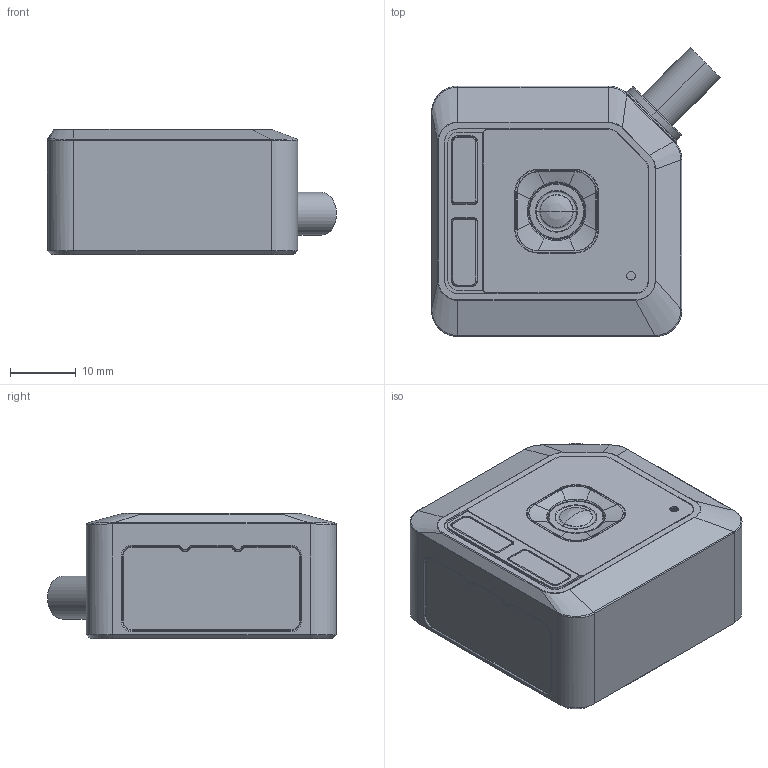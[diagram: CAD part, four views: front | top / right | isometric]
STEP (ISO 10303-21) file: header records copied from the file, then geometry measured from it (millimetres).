
FILE_DESCRIPTION((''),'2;1');
FILE_NAME('MV-SC1000','2024-01-16T11:20:24',('qiaoxuan5'),(''),'CREO PARAMETRIC BY PTC INC, 2020044','CREO PARAMETRIC BY PTC INC, 2020044','');
FILE_SCHEMA(('CONFIG_CONTROL_DESIGN'));
Length unit declared in the file: millimetre
Products named in the file (1): MV-SC1000
Bounding box: 43.89 x 43.89 x 19 mm (x, y, z)
Volume: 21861.5 mm3; surface area: 14856.6 mm2
Topology: 1 solids, 6 shells, 1412 faces, 3557 edges, 2187 vertices
Faces by surface type: cylinder 448, plane 376, torus 288, cone 180, bspline 112, sphere 6, extrusion 2
Entity records: 49741 total; most frequent: CARTESIAN_POINT 15557, DIRECTION 7589, ORIENTED_EDGE 7070, EDGE_CURVE 3535, AXIS2_PLACEMENT_3D 3076, VERTEX_POINT 2187, CIRCLE 1776, EDGE_LOOP 1482
